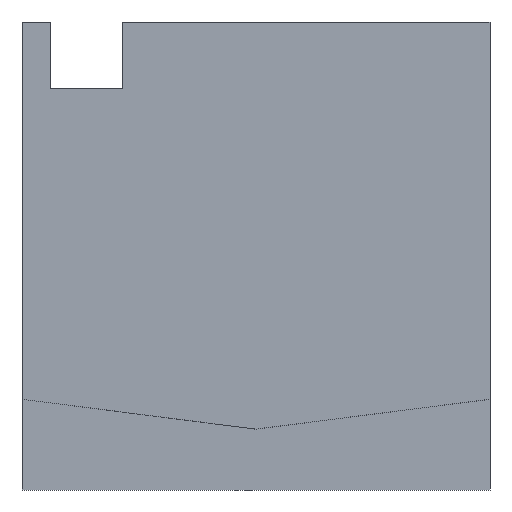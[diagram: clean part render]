
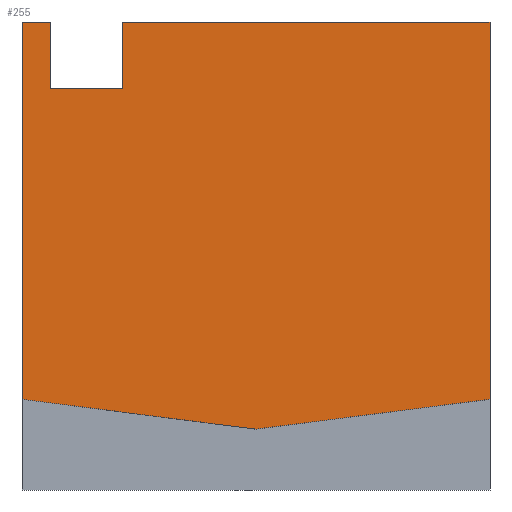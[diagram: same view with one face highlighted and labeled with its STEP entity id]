
A CAD part, front view. The second image highlights one B-rep face of the part: STEP entity #255.
In plain terms, the highlighted planar face has unit normal (0, -1, 0).
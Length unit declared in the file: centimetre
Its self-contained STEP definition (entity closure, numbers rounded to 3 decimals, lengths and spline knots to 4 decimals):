
#35 = VERTEX_POINT ( 'NONE', #62 ) ;
#43 = ORIENTED_EDGE ( 'NONE', *, *, #696, .T. ) ;
#44 = VERTEX_POINT ( 'NONE', #1132 ) ;
#46 = VECTOR ( 'NONE', #396, 100. ) ;
#62 = CARTESIAN_POINT ( 'NONE',  ( 0., 0., 1000. ) ) ;
#81 = EDGE_LOOP ( 'NONE', ( #43, #1130, #1017, #1113, #588, #94, #485, #401, #906 ) ) ;
#94 = ORIENTED_EDGE ( 'NONE', *, *, #292, .F. ) ;
#96 = EDGE_CURVE ( 'NONE', #35, #343, #519, .T. ) ;
#115 = LINE ( 'NONE', #1178, #1450 ) ;
#146 = PLANE ( 'NONE',  #492 ) ;
#213 = LINE ( 'NONE', #902, #1548 ) ;
#254 = CARTESIAN_POINT ( 'NONE',  ( 1000., 0., 1000. ) ) ;
#255 = ADVANCED_FACE ( 'NONE', ( #937 ), #146, .F. ) ;
#292 = EDGE_CURVE ( 'NONE', #831, #1478, #817, .T. ) ;
#294 = VERTEX_POINT ( 'NONE', #1468 ) ;
#327 = LINE ( 'NONE', #692, #1474 ) ;
#343 = VERTEX_POINT ( 'NONE', #525 ) ;
#348 = EDGE_CURVE ( 'NONE', #1435, #852, #793, .T. ) ;
#396 = DIRECTION ( 'NONE',  ( 0., 0., -1. ) ) ;
#401 = ORIENTED_EDGE ( 'NONE', *, *, #1082, .F. ) ;
#406 = DIRECTION ( 'NONE',  ( 0., 1., 0. ) ) ;
#454 = DIRECTION ( 'NONE',  ( -0.992, 0., -0.127 ) ) ;
#485 = ORIENTED_EDGE ( 'NONE', *, *, #632, .F. ) ;
#492 = AXIS2_PLACEMENT_3D ( 'NONE', #1477, #406, #1071 ) ;
#519 = LINE ( 'NONE', #1445, #643 ) ;
#525 = CARTESIAN_POINT ( 'NONE',  ( 60.3941, 0., 1000. ) ) ;
#578 = LINE ( 'NONE', #1393, #635 ) ;
#588 = ORIENTED_EDGE ( 'NONE', *, *, #1330, .F. ) ;
#618 = LINE ( 'NONE', #1608, #46 ) ;
#632 = EDGE_CURVE ( 'NONE', #294, #831, #213, .T. ) ;
#634 = DIRECTION ( 'NONE',  ( 1., 0., 0. ) ) ;
#635 = VECTOR ( 'NONE', #840, 100. ) ;
#643 = VECTOR ( 'NONE', #634, 100. ) ;
#646 = CARTESIAN_POINT ( 'NONE',  ( 1000., 0., 1000. ) ) ;
#656 = VECTOR ( 'NONE', #1335, 100. ) ;
#692 = CARTESIAN_POINT ( 'NONE',  ( 1000., 0., 193.9168 ) ) ;
#696 = EDGE_CURVE ( 'NONE', #35, #1123, #618, .T. ) ;
#793 = LINE ( 'NONE', #646, #656 ) ;
#817 = LINE ( 'NONE', #1064, #967 ) ;
#831 = VERTEX_POINT ( 'NONE', #974 ) ;
#840 = DIRECTION ( 'NONE',  ( 1., 0., 0. ) ) ;
#852 = VERTEX_POINT ( 'NONE', #1098 ) ;
#880 = EDGE_CURVE ( 'NONE', #852, #44, #327, .T. ) ;
#902 = CARTESIAN_POINT ( 'NONE',  ( 60.3941, 0., 858.4559 ) ) ;
#906 = ORIENTED_EDGE ( 'NONE', *, *, #96, .F. ) ;
#929 = DIRECTION ( 'NONE',  ( 0., 0., 1. ) ) ;
#937 = FACE_OUTER_BOUND ( 'NONE', #81, .T. ) ;
#967 = VECTOR ( 'NONE', #929, 100. ) ;
#974 = CARTESIAN_POINT ( 'NONE',  ( 214.5564, 0., 858.4559 ) ) ;
#1017 = ORIENTED_EDGE ( 'NONE', *, *, #880, .F. ) ;
#1034 = DIRECTION ( 'NONE',  ( 0., 0., -1. ) ) ;
#1052 = VECTOR ( 'NONE', #1034, 100. ) ;
#1064 = CARTESIAN_POINT ( 'NONE',  ( 214.5564, 0., 858.4559 ) ) ;
#1071 = DIRECTION ( 'NONE',  ( 0., 0., 1. ) ) ;
#1082 = EDGE_CURVE ( 'NONE', #343, #294, #1135, .T. ) ;
#1098 = CARTESIAN_POINT ( 'NONE',  ( 1000., 0., 193.9168 ) ) ;
#1113 = ORIENTED_EDGE ( 'NONE', *, *, #348, .F. ) ;
#1123 = VERTEX_POINT ( 'NONE', #1184 ) ;
#1130 = ORIENTED_EDGE ( 'NONE', *, *, #1453, .F. ) ;
#1132 = CARTESIAN_POINT ( 'NONE',  ( 500., 0., 130.0569 ) ) ;
#1135 = LINE ( 'NONE', #1436, #1052 ) ;
#1178 = CARTESIAN_POINT ( 'NONE',  ( 500., 0., 130.0569 ) ) ;
#1184 = CARTESIAN_POINT ( 'NONE',  ( 0., 0., 193.9168 ) ) ;
#1330 = EDGE_CURVE ( 'NONE', #1478, #1435, #578, .T. ) ;
#1335 = DIRECTION ( 'NONE',  ( 0., 0., -1. ) ) ;
#1393 = CARTESIAN_POINT ( 'NONE',  ( 0., 0., 1000. ) ) ;
#1435 = VERTEX_POINT ( 'NONE', #254 ) ;
#1436 = CARTESIAN_POINT ( 'NONE',  ( 60.3941, 0., 858.4559 ) ) ;
#1443 = DIRECTION ( 'NONE',  ( 1., 0., 0. ) ) ;
#1445 = CARTESIAN_POINT ( 'NONE',  ( 0., 0., 1000. ) ) ;
#1450 = VECTOR ( 'NONE', #1719, 100. ) ;
#1453 = EDGE_CURVE ( 'NONE', #44, #1123, #115, .T. ) ;
#1468 = CARTESIAN_POINT ( 'NONE',  ( 60.3941, 0., 858.4559 ) ) ;
#1474 = VECTOR ( 'NONE', #454, 100. ) ;
#1477 = CARTESIAN_POINT ( 'NONE',  ( 0., 0., 1000. ) ) ;
#1478 = VERTEX_POINT ( 'NONE', #1585 ) ;
#1548 = VECTOR ( 'NONE', #1443, 100. ) ;
#1585 = CARTESIAN_POINT ( 'NONE',  ( 214.5564, 0., 1000. ) ) ;
#1608 = CARTESIAN_POINT ( 'NONE',  ( 0., 0., 1000. ) ) ;
#1719 = DIRECTION ( 'NONE',  ( -0.992, 0., 0.127 ) ) ;
